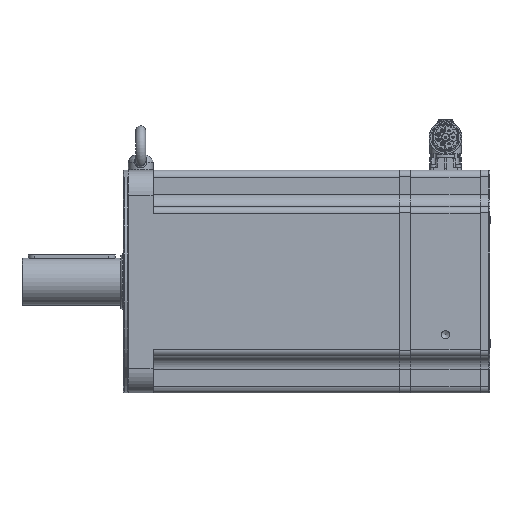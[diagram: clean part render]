
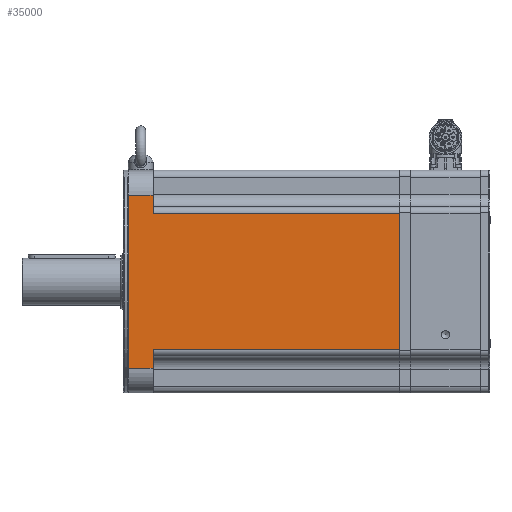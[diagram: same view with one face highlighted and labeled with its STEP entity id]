
A CAD part, left-side view. The second image highlights one B-rep face of the part: STEP entity #35000.
In plain terms, the highlighted planar face has unit normal (-1, 0, 0) as drawn and (1, 0, 0) by its records, which use the part's own axes.
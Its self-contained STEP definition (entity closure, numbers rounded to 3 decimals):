
#1014=PLANE('',#37506);
#4096=LINE('',#59441,#5697);
#4110=LINE('',#59516,#5711);
#4117=LINE('',#59561,#5718);
#4125=LINE('',#59585,#5726);
#4126=LINE('',#59586,#5727);
#4127=LINE('',#59588,#5728);
#4128=LINE('',#59590,#5729);
#4129=LINE('',#59591,#5730);
#5697=VECTOR('',#43788,1000.);
#5711=VECTOR('',#43856,1000.);
#5718=VECTOR('',#43901,1000.);
#5726=VECTOR('',#43925,1000.);
#5727=VECTOR('',#43926,1000.);
#5728=VECTOR('',#43927,1000.);
#5729=VECTOR('',#43928,1000.);
#5730=VECTOR('',#43929,1000.);
#12421=ORIENTED_EDGE('',*,*,#16030,.F.);
#12422=ORIENTED_EDGE('',*,*,#16096,.T.);
#12423=ORIENTED_EDGE('',*,*,#16064,.F.);
#12424=ORIENTED_EDGE('',*,*,#16097,.T.);
#12425=ORIENTED_EDGE('',*,*,#16098,.F.);
#12426=ORIENTED_EDGE('',*,*,#16099,.T.);
#12427=ORIENTED_EDGE('',*,*,#16084,.F.);
#12428=ORIENTED_EDGE('',*,*,#16100,.T.);
#16030=EDGE_CURVE('',#18458,#18459,#4096,.T.);
#16064=EDGE_CURVE('',#18492,#18493,#4110,.T.);
#16084=EDGE_CURVE('',#18512,#18513,#4117,.T.);
#16096=EDGE_CURVE('',#18458,#18493,#4125,.F.);
#16097=EDGE_CURVE('',#18492,#18520,#4126,.T.);
#16098=EDGE_CURVE('',#18521,#18520,#4127,.T.);
#16099=EDGE_CURVE('',#18521,#18513,#4128,.F.);
#16100=EDGE_CURVE('',#18512,#18459,#4129,.T.);
#18458=VERTEX_POINT('',#59440);
#18459=VERTEX_POINT('',#59442);
#18492=VERTEX_POINT('',#59515);
#18493=VERTEX_POINT('',#59517);
#18512=VERTEX_POINT('',#59562);
#18513=VERTEX_POINT('',#59563);
#18520=VERTEX_POINT('',#59587);
#18521=VERTEX_POINT('',#59589);
#21092=EDGE_LOOP('',(#12421,#12422,#12423,#12424,#12425,#12426,#12427,#12428));
#23114=FACE_BOUND('',#21092,.T.);
#35000=ADVANCED_FACE('',(#23114),#1014,.T.);
#37506=AXIS2_PLACEMENT_3D('',#59584,#43923,#43924);
#43788=DIRECTION('',(0.,0.,-1.));
#43856=DIRECTION('',(0.,0.,-1.));
#43901=DIRECTION('',(0.,0.,-1.));
#43923=DIRECTION('',(1.,0.,0.));
#43924=DIRECTION('',(0.,1.,0.));
#43925=DIRECTION('',(0.,1.,0.));
#43926=DIRECTION('',(0.,-1.,0.));
#43927=DIRECTION('',(0.,0.,1.));
#43928=DIRECTION('',(0.,-1.,0.));
#43929=DIRECTION('',(0.,1.,0.));
#59440=CARTESIAN_POINT('',(90.,220.8,55.2));
#59441=CARTESIAN_POINT('',(90.,220.8,-90.));
#59442=CARTESIAN_POINT('',(90.,220.8,-55.2));
#59515=CARTESIAN_POINT('',(90.,21.3,70.));
#59516=CARTESIAN_POINT('',(90.,21.3,-90.));
#59517=CARTESIAN_POINT('',(90.,21.3,55.2));
#59561=CARTESIAN_POINT('',(90.,21.3,-90.));
#59562=CARTESIAN_POINT('',(90.,21.3,-55.2));
#59563=CARTESIAN_POINT('',(90.,21.3,-70.));
#59584=CARTESIAN_POINT('',(90.,488.463,-90.));
#59585=CARTESIAN_POINT('',(90.,488.463,55.2));
#59586=CARTESIAN_POINT('',(90.,488.463,70.));
#59587=CARTESIAN_POINT('',(90.,1.3,70.));
#59588=CARTESIAN_POINT('',(90.,1.3,-90.));
#59589=CARTESIAN_POINT('',(90.,1.3,-70.));
#59590=CARTESIAN_POINT('',(90.,488.463,-70.));
#59591=CARTESIAN_POINT('',(90.,488.463,-55.2));
